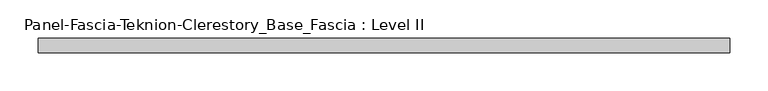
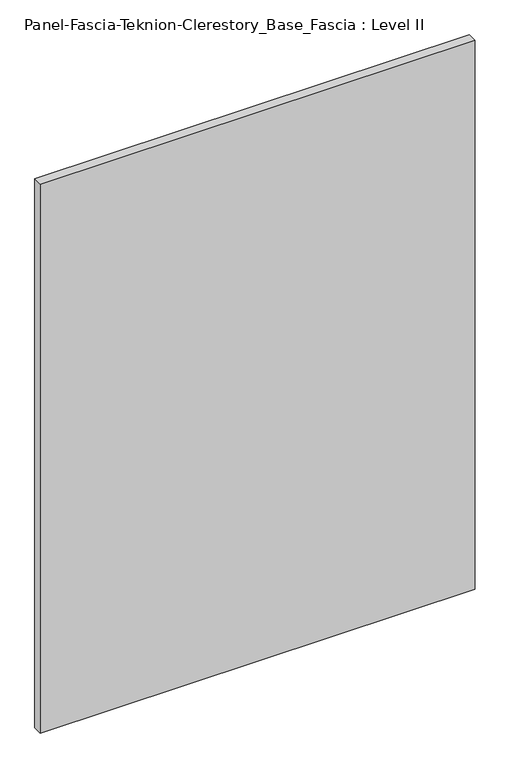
"""IFC4 building model written with IfcOpenShell, lengths in millimetres: proxy geometry, Panel-Fascia-Teknion-Clerestory_Base_Fascia : Level II."""

from ifc_helpers import new_model, si_unit, frame, origin, place, context, project, spatial, polyline, outline, extrude, source, transform, mapped, element, save


def panel_fascia_teknion_clerestory_base_fascia_level_ii_2c55b825(model_context):
    return source(origin(), model_context, "Body", "SweptSolid", [
        extrude(outline(polyline([(454.6147563, 9.525), (454.6147563, -9.525), (-454.6147562, -9.525), (-454.6147562, 9.525), (454.6147563, 9.525)])), frame((0.0, 0.0, 3.175), z_axis=(0.0, 0.0, 1.0), x_axis=(1.0, 0.0, 0.0)), (0.0, 0.0, 1.0), 1212.85),
    ])


if __name__ == "__main__":
    model = new_model("IFC4")
    model_context = context("Model", 3, world=origin())
    ifc_project = project(units=[si_unit("LENGTHUNIT", "METRE", prefix="MILLI")], contexts=[model_context])
    site = spatial("IfcSite", under=ifc_project)
    building = spatial("IfcBuilding", under=site)
    placement = place(None, origin())
    panel_fascia_teknion_clerestory_base_fascia_level_ii_shape = panel_fascia_teknion_clerestory_base_fascia_level_ii_2c55b825(model_context)
    element("IfcBuildingElementProxy", 1, Name="Panel-Fascia-Teknion-Clerestory_Base_Fascia : Level II", ObjectType="Panel-Fascia-Teknion-Clerestory_Base_Fascia : Level II", at=placement, inside=building, context=model_context, shape_type="MappedRepresentation", body=[
        mapped(panel_fascia_teknion_clerestory_base_fascia_level_ii_shape, transform((0.0, 0.0, 0.0), x_axis=(1.0, 0.0, 0.0), y_axis=(0.0, 1.0, 0.0), z_axis=(0.0, 0.0, 1.0))),
    ])
    save(model, "model.ifc")
